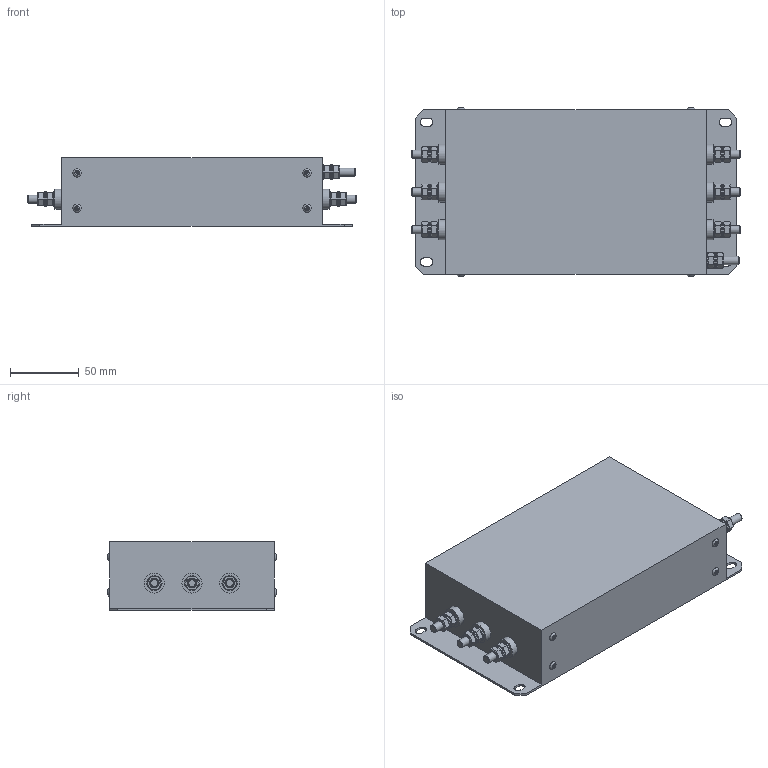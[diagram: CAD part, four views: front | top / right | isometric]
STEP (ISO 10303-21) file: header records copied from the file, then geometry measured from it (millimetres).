
FILE_DESCRIPTION(('STEP AP203'), '1');
FILE_NAME('IEF 22_46,5-4 捘', '', ('UNSPECIFIED'), ('UNSPECIFIED'), 'C3D Converter', 'C3D Toolkit', '');
FILE_SCHEMA(('CONFIG_CONTROL_DESIGN'));
Length unit declared in the file: millimetre
Products named in the file (6): IEF 22_46,5-4; IEF 26_46,5-4
Assembly tree (50 placements, depth 2):
  IEF 22_46,5-4
    IEF 22_46,5-4
    IEF 26_46,5-4  x6
    IEF 22_46,5-4  x21
    IEF 22_46,5-4  x14
    IEF 22_46,5-4  x8
Bounding box: 240 x 122.6 x 50 mm (x, y, z)
Volume: 1162062.1 mm3; surface area: 103519.7 mm2
Topology: 50 solids, 50 shells, 529 faces, 1039 edges, 625 vertices
Faces by surface type: plane 387, cylinder 99, cone 35, torus 8
Full cylindrical faces by diameter (mm): 1.5 x8, 2.25 x8, 6 x48, 11 x21, 14.6 x6
Entity records: 4159 total; most frequent: DIRECTION 498, CARTESIAN_POINT 423, ORIENTED_EDGE 330, AXIS2_PLACEMENT_3D 194, EDGE_CURVE 165, EDGE_LOOP 136, VERTEX_POINT 119, DATE_AND_TIME 112
